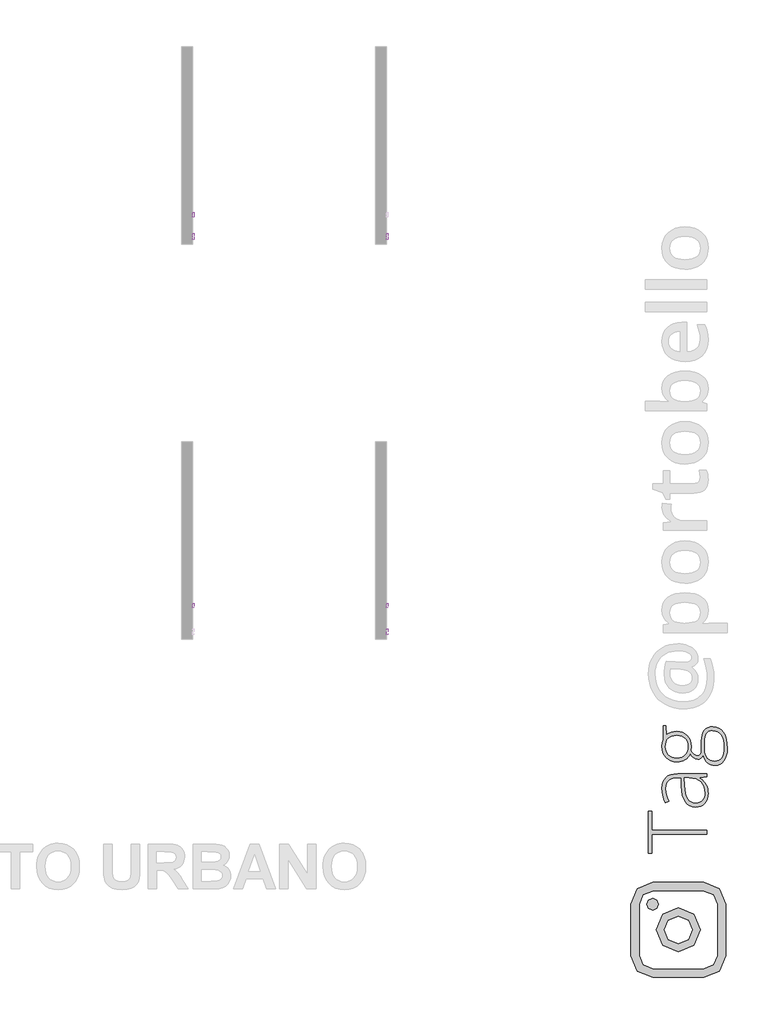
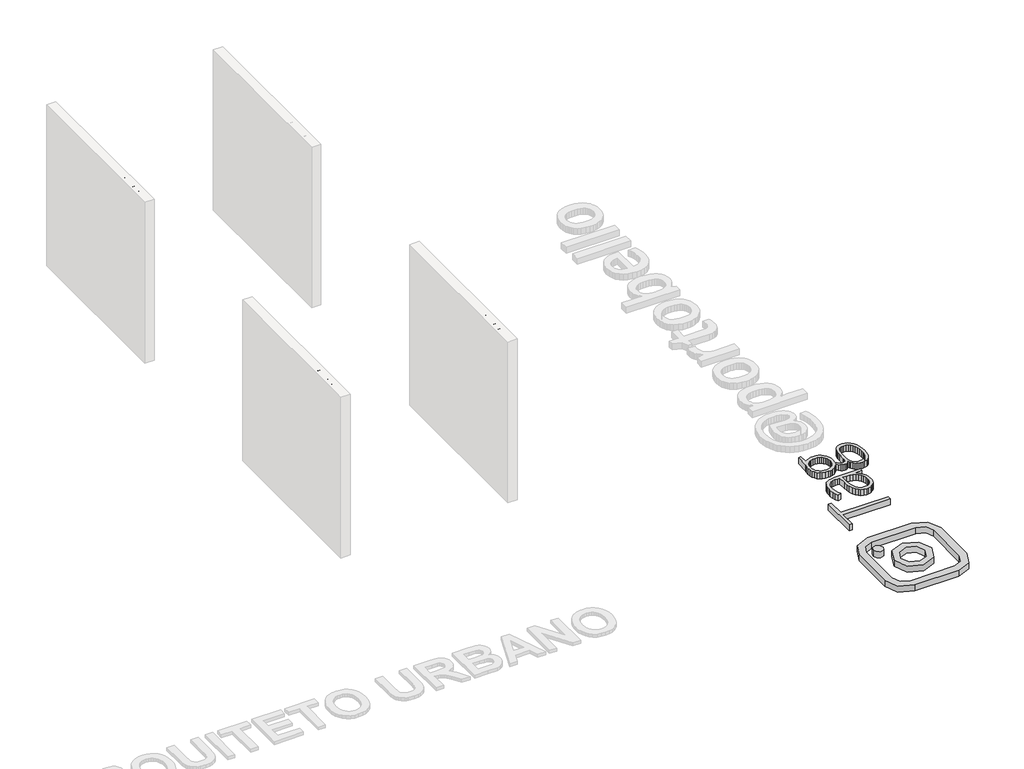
# One storey, part 4 of 8: 8 proxies.
"""IFC4 building model written with IfcOpenShell, lengths in millimetres."""

from ifc_helpers import new_model, si_unit, frame, origin, origin_with_axes, place, context, project, spatial, polyline, outline, extrude, transform, mapped, element, save
from components import generic_models_d67f6705

model = new_model("IFC4")

# Units and contexts
model_context = context("Model", 3, world=origin())
ifc_project = project(units=[si_unit("LENGTHUNIT", "METRE", prefix="MILLI")], contexts=[model_context])

# Site, building, storey
site = spatial("IfcSite", under=ifc_project)
building = spatial("IfcBuilding", under=site)
storey = spatial("IfcBuildingStorey", under=building, Name="PORTOBELLO - SHOWROOM", Elevation=0.0)

# Proxies
placement = place(None, origin())
generic_models_shape = generic_models_d67f6705(model_context)
element("IfcBuildingElementProxy", 1, Name="Blks_Instagram1 : Único 2", ObjectType="Blks_Instagram1 : Único 2", at=placement, inside=storey, context=model_context, shape_type="MappedRepresentation", body=[
    mapped(generic_models_shape, transform((-5593.7976142, -13201.2406298, 0.0), x_axis=(-1.0, 0.0, 0.0), y_axis=(0.0, -1.0, 0.0), z_axis=(0.0, 0.0, 1.0))),
])
element("IfcBuildingElementProxy", 2, Name="10mm Arial", ObjectType="10mm Arial", at=placement, inside=storey, context=model_context, shape_type="SweptSolid", body=[
    extrude(outline(polyline([(-3764.9115358, 2548.8308244), (-3764.9115358, 2649.2871345), (-3752.354497, 2649.2871345), (-3752.354497, 2600.1135745), (-3700.8510177, 2649.2871345), (-3683.2907838, 2649.2871345), (-3726.529181, 2607.9862492), (-3681.721154, 2548.8308244), (-3697.0740959, 2548.8308244), (-3735.4319253, 2599.5004379), (-3752.354497, 2583.362681), (-3752.354497, 2548.8308244), (-3764.9115358, 2548.8308244)])), frame((-9585.374587, 0.0, 0.0), z_axis=(1.0, 0.0, 0.0), x_axis=(0.0, 1.0, 0.0)), (0.0, 0.0, 1.0), 20.0),
    extrude(outline(polyline([(-3626.7841094, 2558.2486035), (-3638.9610034, 2549.7382666), (-3652.4132217, 2547.2611945), (-3662.9070556, 2548.7511166), (-3670.6479059, 2553.2208829), (-3675.4211748, 2560.0083057), (-3677.0122644, 2568.4511975), (-3674.6087687, 2578.3840113), (-3668.2934611, 2585.5944984), (-3659.5010815, 2589.7147768), (-3648.6362999, 2591.6032377), (-3626.8576858, 2595.9197198), (-3626.7841094, 2598.7156229), (-3630.2422001, 2607.9862492), (-3644.1236141, 2611.6160182), (-3656.8278056, 2609.2002598), (-3662.8855958, 2600.6286093), (-3675.4426346, 2602.1982392), (-3670.0102438, 2614.4609723), (-3659.0718858, 2621.646934), (-3642.5049333, 2624.173057), (-3627.2868814, 2621.9412396), (-3618.6907055, 2616.3371705), (-3614.8402072, 2607.8145709), (-3614.2270706, 2596.827162), (-3614.2270706, 2581.20444), (-3613.5894085, 2559.3890376), (-3611.0878109, 2548.8308244), (-3623.6448497, 2548.8308244), (-3626.7841094, 2558.2486035)]), holes=[polyline([(-3626.7841094, 2583.362681), (-3647.0421446, 2579.5121828), (-3657.8456125, 2577.4765691), (-3662.738443, 2574.1656311), (-3664.4552257, 2569.3341142), (-3660.715092, 2562.5405601), (-3649.7399459, 2559.8182333), (-3637.0357543, 2562.8226029), (-3628.8442485, 2570.0944037), (-3626.8576858, 2579.8064884), (-3626.7841094, 2583.362681)])]), frame((-9585.374587, 0.0, 0.0), z_axis=(1.0, 0.0, 0.0), x_axis=(0.0, 1.0, 0.0)), (0.0, 0.0, 1.0), 20.0),
    extrude(outline(polyline([(-3596.9611423, 2548.8308244), (-3596.9611423, 2649.2871345), (-3584.4041035, 2649.2871345), (-3584.4041035, 2595.3065831), (-3556.2488681, 2622.6034272), (-3538.884838, 2622.6034272), (-3567.3834299, 2594.9632266), (-3537.3152081, 2548.8308244), (-3551.981437, 2548.8308244), (-3576.384276, 2586.2321606), (-3584.4041035, 2578.4575877), (-3584.4041035, 2548.8308244), (-3596.9611423, 2548.8308244)])), frame((-9585.374587, 0.0, 0.0), z_axis=(1.0, 0.0, 0.0), x_axis=(0.0, 1.0, 0.0)), (0.0, 0.0, 1.0), 20.0),
    extrude(outline(polyline([(-9565.374587, -3513.7707604), (-9565.374587, -3526.3277992), (-9585.374587, -3526.3277992), (-9585.374587, -3513.7707604), (-9565.374587, -3513.7707604)])), frame((0.0, 0.0, 2636.7300958), z_axis=(0.0, 0.0, 1.0), x_axis=(1.0, 0.0, 0.0)), (0.0, 0.0, 1.0), 12.5570388),
    extrude(outline(polyline([(-9565.374587, -3513.7707604), (-9565.374587, -3526.3277992), (-9585.374587, -3526.3277992), (-9585.374587, -3513.7707604), (-9565.374587, -3513.7707604)])), frame((0.0, 0.0, 2548.8308244), z_axis=(0.0, 0.0, 1.0), x_axis=(1.0, 0.0, 0.0)), (0.0, 0.0, 1.0), 73.7726028),
])
element("IfcBuildingElementProxy", 3, Name="10mm Arial", ObjectType="10mm Arial", at=placement, inside=storey, context=model_context, shape_type="SweptSolid", body=[
    extrude(outline(polyline([(-3764.9115358, 2548.8308244), (-3764.9115358, 2649.2871345), (-3752.354497, 2649.2871345), (-3752.354497, 2600.1135745), (-3700.8510177, 2649.2871345), (-3683.2907838, 2649.2871345), (-3726.529181, 2607.9862492), (-3681.721154, 2548.8308244), (-3697.0740959, 2548.8308244), (-3735.4319253, 2599.5004379), (-3752.354497, 2583.362681), (-3752.354497, 2548.8308244), (-3764.9115358, 2548.8308244)])), frame((-12236.674587, 0.0, 0.0), z_axis=(1.0, 0.0, 0.0), x_axis=(0.0, 1.0, 0.0)), (0.0, 0.0, 1.0), 20.0),
    extrude(outline(polyline([(-3626.7841094, 2558.2486035), (-3638.9610034, 2549.7382666), (-3652.4132217, 2547.2611945), (-3662.9070556, 2548.7511166), (-3670.6479059, 2553.2208829), (-3675.4211748, 2560.0083057), (-3677.0122644, 2568.4511975), (-3674.6087687, 2578.3840113), (-3668.2934611, 2585.5944984), (-3659.5010815, 2589.7147768), (-3648.6362999, 2591.6032377), (-3626.8576858, 2595.9197198), (-3626.7841094, 2598.7156229), (-3630.2422001, 2607.9862492), (-3644.1236141, 2611.6160182), (-3656.8278056, 2609.2002598), (-3662.8855958, 2600.6286093), (-3675.4426346, 2602.1982392), (-3670.0102438, 2614.4609723), (-3659.0718858, 2621.646934), (-3642.5049333, 2624.173057), (-3627.2868814, 2621.9412396), (-3618.6907055, 2616.3371705), (-3614.8402072, 2607.8145709), (-3614.2270706, 2596.827162), (-3614.2270706, 2581.20444), (-3613.5894085, 2559.3890376), (-3611.0878109, 2548.8308244), (-3623.6448497, 2548.8308244), (-3626.7841094, 2558.2486035)]), holes=[polyline([(-3626.7841094, 2583.362681), (-3647.0421446, 2579.5121828), (-3657.8456125, 2577.4765691), (-3662.738443, 2574.1656311), (-3664.4552257, 2569.3341142), (-3660.715092, 2562.5405601), (-3649.7399459, 2559.8182333), (-3637.0357543, 2562.8226029), (-3628.8442485, 2570.0944037), (-3626.8576858, 2579.8064884), (-3626.7841094, 2583.362681)])]), frame((-12236.674587, 0.0, 0.0), z_axis=(1.0, 0.0, 0.0), x_axis=(0.0, 1.0, 0.0)), (0.0, 0.0, 1.0), 20.0),
    extrude(outline(polyline([(-3596.9611423, 2548.8308244), (-3596.9611423, 2649.2871345), (-3584.4041035, 2649.2871345), (-3584.4041035, 2595.3065831), (-3556.2488681, 2622.6034272), (-3538.884838, 2622.6034272), (-3567.3834299, 2594.9632266), (-3537.3152081, 2548.8308244), (-3551.981437, 2548.8308244), (-3576.384276, 2586.2321606), (-3584.4041035, 2578.4575877), (-3584.4041035, 2548.8308244), (-3596.9611423, 2548.8308244)])), frame((-12236.674587, 0.0, 0.0), z_axis=(1.0, 0.0, 0.0), x_axis=(0.0, 1.0, 0.0)), (0.0, 0.0, 1.0), 20.0),
    extrude(outline(polyline([(-12216.674587, -3513.7707604), (-12216.674587, -3526.3277992), (-12236.674587, -3526.3277992), (-12236.674587, -3513.7707604), (-12216.674587, -3513.7707604)])), frame((0.0, 0.0, 2636.7300958), z_axis=(0.0, 0.0, 1.0), x_axis=(1.0, 0.0, 0.0)), (0.0, 0.0, 1.0), 12.5570388),
    extrude(outline(polyline([(-12216.674587, -3513.7707604), (-12216.674587, -3526.3277992), (-12236.674587, -3526.3277992), (-12236.674587, -3513.7707604), (-12216.674587, -3513.7707604)])), frame((0.0, 0.0, 2548.8308244), z_axis=(0.0, 0.0, 1.0), x_axis=(1.0, 0.0, 0.0)), (0.0, 0.0, 1.0), 73.7726028),
])
element("IfcBuildingElementProxy", 4, Name="10mm Arial", ObjectType="10mm Arial", at=placement, inside=storey, context=model_context, shape_type="SweptSolid", body=[
    extrude(outline(polyline([(-9164.9115358, 2548.8308244), (-9164.9115358, 2649.2871345), (-9151.4715803, 2649.2871345), (-9098.9870823, 2569.7019962), (-9098.9870823, 2649.2871345), (-9086.4300435, 2649.2871345), (-9086.4300435, 2548.8308244), (-9099.8699991, 2548.8308244), (-9152.354497, 2628.4404881), (-9152.354497, 2548.8308244), (-9164.9115358, 2548.8308244)])), frame((-9585.374587, 0.0, 0.0), z_axis=(1.0, 0.0, 0.0), x_axis=(0.0, 1.0, 0.0)), (0.0, 0.0, 1.0), 20.0),
    extrude(outline(polyline([(-9014.3742234, 2570.8056422), (-9002.0624393, 2569.2360124), (-9006.498483, 2559.9592547), (-9013.5771457, 2553.0246791), (-9023.1390119, 2548.7020657), (-9035.024666, 2547.2611945), (-9049.75834, 2549.7474637), (-9061.0952368, 2557.2062711), (-9068.324118, 2569.1532389), (-9070.733745, 2585.1039891), (-9068.2995925, 2601.5912339), (-9060.9971349, 2613.9214121), (-9049.8135223, 2621.6101458), (-9035.7359046, 2624.173057), (-9022.0966796, 2621.6162771), (-9011.1981755, 2613.9459375), (-9004.0520677, 2601.6402848), (-9001.6700318, 2585.1775655), (-9001.7436082, 2581.7930512), (-9058.1767063, 2581.7930512), (-9056.0031368, 2572.3936662), (-9050.9539564, 2565.483616), (-9043.6668272, 2561.234579), (-9034.7794114, 2559.8182333), (-9022.4676273, 2562.4424582), (-9014.3742234, 2570.8056422)]), holes=[polyline([(-9058.1767063, 2594.3500899), (-9014.2270706, 2594.3500899), (-9019.2547912, 2605.7299063), (-9026.5756429, 2610.1444902), (-9035.7849555, 2611.6160182), (-9051.248262, 2606.9193914), (-9056.1135014, 2601.4287526), (-9058.1767063, 2594.3500899)])]), frame((-9585.374587, 0.0, 0.0), z_axis=(1.0, 0.0, 0.0), x_axis=(0.0, 1.0, 0.0)), (0.0, 0.0, 1.0), 20.0),
    extrude(outline(polyline([(-8971.0131989, 2548.8308244), (-8996.9611423, 2622.6034272), (-8983.6683395, 2622.6034272), (-8967.9475156, 2578.4085368), (-8963.2141006, 2563.5461042), (-8958.5787874, 2577.5746709), (-8942.7598617, 2622.6034272), (-8929.4670589, 2622.6034272), (-8955.0961712, 2548.8308244), (-8971.0131989, 2548.8308244)])), frame((-9585.374587, 0.0, 0.0), z_axis=(1.0, 0.0, 0.0), x_axis=(0.0, 1.0, 0.0)), (0.0, 0.0, 1.0), 20.0),
    extrude(outline(polyline([(-8866.8290179, 2570.8056422), (-8854.5172337, 2569.2360124), (-8858.9532775, 2559.9592547), (-8866.0319402, 2553.0246791), (-8875.5938064, 2548.7020657), (-8887.4794605, 2547.2611945), (-8902.2131344, 2549.7474637), (-8913.5500312, 2557.2062711), (-8920.7789124, 2569.1532389), (-8923.1885395, 2585.1039891), (-8920.754387, 2601.5912339), (-8913.4519294, 2613.9214121), (-8902.2683167, 2621.6101458), (-8888.190699, 2624.173057), (-8874.5514741, 2621.6162771), (-8863.65297, 2613.9459375), (-8856.5068622, 2601.6402848), (-8854.1248263, 2585.1775655), (-8854.1984027, 2581.7930512), (-8910.6315007, 2581.7930512), (-8908.4579313, 2572.3936662), (-8903.4087509, 2565.483616), (-8896.1216217, 2561.234579), (-8887.2342059, 2559.8182333), (-8874.9224217, 2562.4424582), (-8866.8290179, 2570.8056422)]), holes=[polyline([(-8910.6315007, 2594.3500899), (-8866.6818651, 2594.3500899), (-8871.7095857, 2605.7299063), (-8879.0304374, 2610.1444902), (-8888.23975, 2611.6160182), (-8903.7030565, 2606.9193914), (-8908.5682959, 2601.4287526), (-8910.6315007, 2594.3500899)])]), frame((-9585.374587, 0.0, 0.0), z_axis=(1.0, 0.0, 0.0), x_axis=(0.0, 1.0, 0.0)), (0.0, 0.0, 1.0), 20.0),
])
element("IfcBuildingElementProxy", 5, Name="10mm Arial Narrow", ObjectType="10mm Arial Narrow", at=placement, inside=storey, context=model_context, shape_type="SweptSolid", body=[
    extrude(outline(polyline([(-3457.7764767, 2548.8308244), (-3457.7764767, 2649.5494281), (-3426.479592, 2649.5494281), (-3410.1838905, 2647.6711074), (-3398.7109044, 2638.1906642), (-3394.4212259, 2621.1715554), (-3396.2075343, 2609.0957299), (-3401.5664595, 2599.4693361), (-3411.3102484, 2593.1680777), (-3426.2511476, 2591.0676582), (-3448.029515, 2591.0676582), (-3448.029515, 2548.8308244), (-3457.7764767, 2548.8308244)]), holes=[polyline([(-3448.029515, 2602.4391135), (-3425.0581601, 2602.4391135), (-3409.1939647, 2606.9699277), (-3404.1681876, 2620.6385184), (-3406.6430021, 2630.8042949), (-3412.6206309, 2636.6042447), (-3425.2866045, 2638.1779729), (-3448.029515, 2638.1779729), (-3448.029515, 2602.4391135)])]), frame((-12236.674587, 0.0, 0.0), z_axis=(1.0, 0.0, 0.0), x_axis=(0.0, 1.0, 0.0)), (0.0, 0.0, 1.0), 20.0),
    extrude(outline(polyline([(-3386.2987579, 2585.3819306), (-3384.344289, 2601.9727061), (-3378.4808824, 2613.9247909), (-3369.6223157, 2621.1493455), (-3358.6823665, 2623.5575304), (-3347.869331, 2621.1493455), (-3338.9853815, 2613.9247909), (-3333.0458268, 2602.1630765), (-3331.0659752, 2586.143412), (-3333.0109255, 2568.9815254), (-3338.8457766, 2556.8390702), (-3347.6948248, 2549.6145156), (-3358.6823665, 2547.2063308), (-3369.5429947, 2549.6208613), (-3378.4174256, 2556.8644529), (-3384.3284248, 2568.8228834), (-3386.2987579, 2585.3819306)]), holes=[polyline([(-3376.5517962, 2585.4073133), (-3375.2477594, 2572.8555619), (-3371.3356488, 2563.9843038), (-3365.494452, 2558.7110453), (-3358.4031567, 2556.9532924), (-3351.6830835, 2558.7269095), (-3345.9910102, 2564.0477606), (-3342.1074552, 2572.9348829), (-3340.8129368, 2585.4073133), (-3342.1169737, 2597.9209906), (-3346.0290843, 2606.7795573), (-3351.870281, 2612.0528159), (-3358.9615764, 2613.8105687), (-3365.7292421, 2612.0432974), (-3371.4117969, 2606.7414833), (-3375.2667964, 2597.873398), (-3376.5517962, 2585.4073133)])]), frame((-12236.674587, 0.0, 0.0), z_axis=(1.0, 0.0, 0.0), x_axis=(0.0, 1.0, 0.0)), (0.0, 0.0, 1.0), 20.0),
    extrude(outline(polyline([(-3259.5882564, 2556.9532924), (-3257.9637628, 2547.2063308), (-3265.3247495, 2547.2063308), (-3273.5995138, 2549.3257873), (-3277.9145749, 2555.1257371), (-3279.0821797, 2569.7715623), (-3279.0821797, 2612.1860751), (-3287.2046478, 2612.1860751), (-3287.2046478, 2615.4350624), (-3288.8291414, 2610.5615815), (-3296.3931897, 2612.1860751), (-3302.4723494, 2609.8635569), (-3306.3432131, 2603.3782738), (-3308.3230647, 2587.9709673), (-3308.3230647, 2548.8308244), (-3318.0700263, 2548.8308244), (-3318.0700263, 2621.9330368), (-3308.3230647, 2621.9330368), (-3308.3230647, 2612.2368406), (-3302.0789174, 2621.3238517), (-3295.6824738, 2623.5575304), (-3287.2046478, 2621.9330368), (-3279.0821797, 2621.9330368), (-3279.0821797, 2638.1779729), (-3269.3352181, 2646.3004409), (-3269.3352181, 2621.9330368), (-3259.5882564, 2621.9330368), (-3259.5882564, 2612.1860751), (-3269.3352181, 2612.1860751), (-3269.3352181, 2567.5378836), (-3268.4722058, 2559.5423291), (-3263.8525521, 2556.9532924), (-3259.5882564, 2556.9532924)])), frame((-12236.674587, 0.0, 0.0), z_axis=(1.0, 0.0, 0.0), x_axis=(0.0, 1.0, 0.0)), (0.0, 0.0, 1.0), 20.0),
    extrude(outline(polyline([(-3253.090282, 2585.3819306), (-3251.1358131, 2601.9727061), (-3245.2724065, 2613.9247909), (-3236.4138398, 2621.1493455), (-3225.4738906, 2623.5575304), (-3214.660855, 2621.1493455), (-3205.7769056, 2613.9247909), (-3199.8373508, 2602.1630765), (-3197.8574993, 2586.143412), (-3199.8024496, 2568.9815254), (-3205.6373007, 2556.8390702), (-3214.4863489, 2549.6145156), (-3225.4738906, 2547.2063308), (-3236.3345188, 2549.6208613), (-3245.2089497, 2556.8644529), (-3251.1199489, 2568.8228834), (-3253.090282, 2585.3819306)]), holes=[polyline([(-3243.3433203, 2585.4073133), (-3242.0392834, 2572.8555619), (-3238.1271729, 2563.9843038), (-3232.2859761, 2558.7110453), (-3225.1946808, 2556.9532924), (-3218.4746076, 2558.7269095), (-3212.7825343, 2564.0477606), (-3208.8989793, 2572.9348829), (-3207.6044609, 2585.4073133), (-3208.9084978, 2597.9209906), (-3212.8206084, 2606.7795573), (-3218.6618051, 2612.0528159), (-3225.7531005, 2613.8105687), (-3232.5207662, 2612.0432974), (-3238.203321, 2606.7414833), (-3242.0583205, 2597.873398), (-3243.3433203, 2585.4073133)])]), frame((-12236.674587, 0.0, 0.0), z_axis=(1.0, 0.0, 0.0), x_axis=(0.0, 1.0, 0.0)), (0.0, 0.0, 1.0), 20.0),
    extrude(outline(polyline([(-3175.1145887, 2548.8308244), (-3184.8615504, 2548.8308244), (-3184.8615504, 2649.5494281), (-3175.1145887, 2649.5494281), (-3175.1145887, 2614.140544), (-3167.715528, 2621.2223208), (-3158.5142947, 2623.5575304), (-3145.632568, 2619.3566915), (-3136.3551865, 2606.6272611), (-3132.8777549, 2585.9403503), (-3134.8100139, 2569.4860068), (-3140.6067909, 2557.2832677), (-3148.9799132, 2549.725565), (-3158.6412082, 2547.2063308), (-3167.9820465, 2549.8207502), (-3175.1145887, 2557.5878602), (-3175.1145887, 2548.8308244)]), holes=[polyline([(-3175.1145887, 2585.9403503), (-3173.0332063, 2568.692797), (-3167.144417, 2559.9611439), (-3158.6919737, 2556.9532924), (-3152.7492461, 2558.7427737), (-3147.5108887, 2564.1112174), (-3142.6247166, 2585.5342269), (-3147.3332098, 2606.9699277), (-3152.5779128, 2612.1004085), (-3158.8950354, 2613.8105687), (-3164.8726642, 2612.0210875), (-3170.1649598, 2606.6526438), (-3175.1145887, 2585.9403503)])]), frame((-12236.674587, 0.0, 0.0), z_axis=(1.0, 0.0, 0.0), x_axis=(0.0, 1.0, 0.0)), (0.0, 0.0, 1.0), 20.0),
    extrude(outline(polyline([(-3080.8939594, 2571.5737349), (-3071.1469978, 2569.9492413), (-3074.8465281, 2560.0626747), (-3080.665515, 2552.9428238), (-3088.3691683, 2548.640454), (-3097.7226979, 2547.2063308), (-3109.3162519, 2549.6208613), (-3118.4603741, 2556.8644529), (-3124.3999289, 2568.6705872), (-3126.3797805, 2584.7727455), (-3124.3904104, 2601.4396692), (-3118.4223001, 2613.6201984), (-3109.4082642, 2621.0731974), (-3098.2811176, 2623.5575304), (-3087.5981684, 2621.1588641), (-3078.8506511, 2613.962865), (-3073.0158, 2602.2233604), (-3071.0708496, 2586.1941774), (-3071.1469978, 2582.9451902), (-3116.6328188, 2582.9451902), (-3110.6298073, 2563.5020323), (-3104.699771, 2558.5904774), (-3097.5957843, 2556.9532924), (-3087.4173166, 2560.608403), (-3080.8939594, 2571.5737349)]), holes=[polyline([(-3115.9728683, 2592.6921518), (-3080.8939594, 2592.6921518), (-3085.1582551, 2606.9572363), (-3090.9835877, 2612.0972356), (-3098.2049694, 2613.8105687), (-3110.4140542, 2608.0994584), (-3115.9728683, 2592.6921518)])]), frame((-12236.674587, 0.0, 0.0), z_axis=(1.0, 0.0, 0.0), x_axis=(0.0, 1.0, 0.0)), (0.0, 0.0, 1.0), 20.0),
    extrude(outline(polyline([(-12216.674587, -3048.4040872), (-12216.674587, -3058.1510489), (-12236.674587, -3058.1510489), (-12236.674587, -3048.4040872), (-12216.674587, -3048.4040872)])), frame((0.0, 0.0, 2548.8308244), z_axis=(0.0, 0.0, 1.0), x_axis=(1.0, 0.0, 0.0)), (0.0, 0.0, 1.0), 100.7186038),
    extrude(outline(polyline([(-12216.674587, -3022.4121895), (-12216.674587, -3032.1591512), (-12236.674587, -3032.1591512), (-12236.674587, -3022.4121895), (-12216.674587, -3022.4121895)])), frame((0.0, 0.0, 2548.8308244), z_axis=(0.0, 0.0, 1.0), x_axis=(1.0, 0.0, 0.0)), (0.0, 0.0, 1.0), 100.7186038),
    extrude(outline(polyline([(-3011.0407342, 2585.3819306), (-3009.0862654, 2601.9727061), (-3003.2228587, 2613.9247909), (-2994.364292, 2621.1493455), (-2983.4243429, 2623.5575304), (-2972.6113073, 2621.1493455), (-2963.7273579, 2613.9247909), (-2957.7878031, 2602.1630765), (-2955.8079515, 2586.143412), (-2957.7529019, 2568.9815254), (-2963.587753, 2556.8390702), (-2972.4368012, 2549.6145156), (-2983.4243429, 2547.2063308), (-2994.2849711, 2549.6208613), (-3003.159402, 2556.8644529), (-3009.0704012, 2568.8228834), (-3011.0407342, 2585.3819306)]), holes=[polyline([(-3001.2937726, 2585.4073133), (-2999.9897357, 2572.8555619), (-2996.0776251, 2563.9843038), (-2990.2364284, 2558.7110453), (-2983.145133, 2556.9532924), (-2976.4250599, 2558.7269095), (-2970.7329866, 2564.0477606), (-2966.8494315, 2572.9348829), (-2965.5549132, 2585.4073133), (-2966.85895, 2597.9209906), (-2970.7710606, 2606.7795573), (-2976.6122574, 2612.0528159), (-2983.7035527, 2613.8105687), (-2990.4712185, 2612.0432974), (-2996.1537733, 2606.7414833), (-3000.0087728, 2597.873398), (-3001.2937726, 2585.4073133)])]), frame((-12236.674587, 0.0, 0.0), z_axis=(1.0, 0.0, 0.0), x_axis=(0.0, 1.0, 0.0)), (0.0, 0.0, 1.0), 20.0),
])
element("IfcBuildingElementProxy", 6, Name="10mm Arial Narrow", ObjectType="10mm Arial Narrow", at=placement, inside=storey, context=model_context, shape_type="SweptSolid", body=[
    extrude(outline(polyline([(-8797.7764767, 2548.8308244), (-8797.7764767, 2649.5494281), (-8766.479592, 2649.5494281), (-8750.1838905, 2647.6711074), (-8738.7109044, 2638.1906642), (-8734.4212259, 2621.1715554), (-8736.2075343, 2609.0957299), (-8741.5664595, 2599.4693361), (-8751.3102484, 2593.1680777), (-8766.2511476, 2591.0676582), (-8788.029515, 2591.0676582), (-8788.029515, 2548.8308244), (-8797.7764767, 2548.8308244)]), holes=[polyline([(-8788.029515, 2602.4391135), (-8765.0581601, 2602.4391135), (-8749.1939647, 2606.9699277), (-8744.1681876, 2620.6385184), (-8746.6430021, 2630.8042949), (-8752.6206309, 2636.6042447), (-8765.2866045, 2638.1779729), (-8788.029515, 2638.1779729), (-8788.029515, 2602.4391135)])]), frame((-9585.374587, 0.0, 0.0), z_axis=(1.0, 0.0, 0.0), x_axis=(0.0, 1.0, 0.0)), (0.0, 0.0, 1.0), 20.0),
    extrude(outline(polyline([(-8726.2987579, 2585.3819306), (-8724.344289, 2601.9727061), (-8718.4808824, 2613.9247909), (-8709.6223157, 2621.1493455), (-8698.6823665, 2623.5575304), (-8687.869331, 2621.1493455), (-8678.9853815, 2613.9247909), (-8673.0458268, 2602.1630765), (-8671.0659752, 2586.143412), (-8673.0109255, 2568.9815254), (-8678.8457766, 2556.8390702), (-8687.6948248, 2549.6145156), (-8698.6823665, 2547.2063308), (-8709.5429947, 2549.6208613), (-8718.4174256, 2556.8644529), (-8724.3284248, 2568.8228834), (-8726.2987579, 2585.3819306)]), holes=[polyline([(-8716.5517962, 2585.4073133), (-8715.2477594, 2572.8555619), (-8711.3356488, 2563.9843038), (-8705.494452, 2558.7110453), (-8698.4031567, 2556.9532924), (-8691.6830835, 2558.7269095), (-8685.9910102, 2564.0477606), (-8682.1074552, 2572.9348829), (-8680.8129368, 2585.4073133), (-8682.1169737, 2597.9209906), (-8686.0290843, 2606.7795573), (-8691.870281, 2612.0528159), (-8698.9615764, 2613.8105687), (-8705.7292421, 2612.0432974), (-8711.4117969, 2606.7414833), (-8715.2667964, 2597.873398), (-8716.5517962, 2585.4073133)])]), frame((-9585.374587, 0.0, 0.0), z_axis=(1.0, 0.0, 0.0), x_axis=(0.0, 1.0, 0.0)), (0.0, 0.0, 1.0), 20.0),
    extrude(outline(polyline([(-8599.5882564, 2556.9532924), (-8597.9637628, 2547.2063308), (-8605.3247495, 2547.2063308), (-8613.5995138, 2549.3257873), (-8617.9145749, 2555.1257371), (-8619.0821797, 2569.7715623), (-8619.0821797, 2612.1860751), (-8627.2046478, 2612.1860751), (-8627.2046478, 2615.4350624), (-8628.8291414, 2610.5615815), (-8636.3931897, 2612.1860751), (-8642.4723494, 2609.8635569), (-8646.3432131, 2603.3782738), (-8648.3230647, 2587.9709673), (-8648.3230647, 2548.8308244), (-8658.0700263, 2548.8308244), (-8658.0700263, 2621.9330368), (-8648.3230647, 2621.9330368), (-8648.3230647, 2612.2368406), (-8642.0789174, 2621.3238517), (-8635.6824738, 2623.5575304), (-8627.2046478, 2621.9330368), (-8619.0821797, 2621.9330368), (-8619.0821797, 2638.1779729), (-8609.3352181, 2646.3004409), (-8609.3352181, 2621.9330368), (-8599.5882564, 2621.9330368), (-8599.5882564, 2612.1860751), (-8609.3352181, 2612.1860751), (-8609.3352181, 2567.5378836), (-8608.4722058, 2559.5423291), (-8603.8525521, 2556.9532924), (-8599.5882564, 2556.9532924)])), frame((-9585.374587, 0.0, 0.0), z_axis=(1.0, 0.0, 0.0), x_axis=(0.0, 1.0, 0.0)), (0.0, 0.0, 1.0), 20.0),
    extrude(outline(polyline([(-8593.090282, 2585.3819306), (-8591.1358131, 2601.9727061), (-8585.2724065, 2613.9247909), (-8576.4138398, 2621.1493455), (-8565.4738906, 2623.5575304), (-8554.660855, 2621.1493455), (-8545.7769056, 2613.9247909), (-8539.8373508, 2602.1630765), (-8537.8574993, 2586.143412), (-8539.8024496, 2568.9815254), (-8545.6373007, 2556.8390702), (-8554.4863489, 2549.6145156), (-8565.4738906, 2547.2063308), (-8576.3345188, 2549.6208613), (-8585.2089497, 2556.8644529), (-8591.1199489, 2568.8228834), (-8593.090282, 2585.3819306)]), holes=[polyline([(-8583.3433203, 2585.4073133), (-8582.0392834, 2572.8555619), (-8578.1271729, 2563.9843038), (-8572.2859761, 2558.7110453), (-8565.1946808, 2556.9532924), (-8558.4746076, 2558.7269095), (-8552.7825343, 2564.0477606), (-8548.8989793, 2572.9348829), (-8547.6044609, 2585.4073133), (-8548.9084978, 2597.9209906), (-8552.8206084, 2606.7795573), (-8558.6618051, 2612.0528159), (-8565.7531005, 2613.8105687), (-8572.5207662, 2612.0432974), (-8578.203321, 2606.7414833), (-8582.0583205, 2597.873398), (-8583.3433203, 2585.4073133)])]), frame((-9585.374587, 0.0, 0.0), z_axis=(1.0, 0.0, 0.0), x_axis=(0.0, 1.0, 0.0)), (0.0, 0.0, 1.0), 20.0),
    extrude(outline(polyline([(-8515.1145887, 2548.8308244), (-8524.8615504, 2548.8308244), (-8524.8615504, 2649.5494281), (-8515.1145887, 2649.5494281), (-8515.1145887, 2614.140544), (-8507.715528, 2621.2223208), (-8498.5142947, 2623.5575304), (-8485.632568, 2619.3566915), (-8476.3551865, 2606.6272611), (-8472.8777549, 2585.9403503), (-8474.8100139, 2569.4860068), (-8480.6067909, 2557.2832677), (-8488.9799132, 2549.725565), (-8498.6412082, 2547.2063308), (-8507.9820465, 2549.8207502), (-8515.1145887, 2557.5878602), (-8515.1145887, 2548.8308244)]), holes=[polyline([(-8515.1145887, 2585.9403503), (-8513.0332063, 2568.692797), (-8507.144417, 2559.9611439), (-8498.6919737, 2556.9532924), (-8492.7492461, 2558.7427737), (-8487.5108887, 2564.1112174), (-8482.6247166, 2585.5342269), (-8487.3332098, 2606.9699277), (-8492.5779128, 2612.1004085), (-8498.8950354, 2613.8105687), (-8504.8726642, 2612.0210875), (-8510.1649598, 2606.6526438), (-8515.1145887, 2585.9403503)])]), frame((-9585.374587, 0.0, 0.0), z_axis=(1.0, 0.0, 0.0), x_axis=(0.0, 1.0, 0.0)), (0.0, 0.0, 1.0), 20.0),
    extrude(outline(polyline([(-8420.8939594, 2571.5737349), (-8411.1469978, 2569.9492413), (-8414.8465281, 2560.0626747), (-8420.665515, 2552.9428238), (-8428.3691683, 2548.640454), (-8437.7226979, 2547.2063308), (-8449.3162519, 2549.6208613), (-8458.4603741, 2556.8644529), (-8464.3999289, 2568.6705872), (-8466.3797805, 2584.7727455), (-8464.3904104, 2601.4396692), (-8458.4223001, 2613.6201984), (-8449.4082642, 2621.0731974), (-8438.2811176, 2623.5575304), (-8427.5981684, 2621.1588641), (-8418.8506511, 2613.962865), (-8413.0158, 2602.2233604), (-8411.0708496, 2586.1941774), (-8411.1469978, 2582.9451902), (-8456.6328188, 2582.9451902), (-8450.6298073, 2563.5020323), (-8444.699771, 2558.5904774), (-8437.5957843, 2556.9532924), (-8427.4173166, 2560.608403), (-8420.8939594, 2571.5737349)]), holes=[polyline([(-8455.9728683, 2592.6921518), (-8420.8939594, 2592.6921518), (-8425.1582551, 2606.9572363), (-8430.9835877, 2612.0972356), (-8438.2049694, 2613.8105687), (-8450.4140542, 2608.0994584), (-8455.9728683, 2592.6921518)])]), frame((-9585.374587, 0.0, 0.0), z_axis=(1.0, 0.0, 0.0), x_axis=(0.0, 1.0, 0.0)), (0.0, 0.0, 1.0), 20.0),
    extrude(outline(polyline([(-9565.374587, -8388.4040872), (-9565.374587, -8398.1510489), (-9585.374587, -8398.1510489), (-9585.374587, -8388.4040872), (-9565.374587, -8388.4040872)])), frame((0.0, 0.0, 2548.8308244), z_axis=(0.0, 0.0, 1.0), x_axis=(1.0, 0.0, 0.0)), (0.0, 0.0, 1.0), 100.7186038),
    extrude(outline(polyline([(-9565.374587, -8362.4121895), (-9565.374587, -8372.1591512), (-9585.374587, -8372.1591512), (-9585.374587, -8362.4121895), (-9565.374587, -8362.4121895)])), frame((0.0, 0.0, 2548.8308244), z_axis=(0.0, 0.0, 1.0), x_axis=(1.0, 0.0, 0.0)), (0.0, 0.0, 1.0), 100.7186038),
    extrude(outline(polyline([(-8351.0407342, 2585.3819306), (-8349.0862654, 2601.9727061), (-8343.2228587, 2613.9247909), (-8334.364292, 2621.1493455), (-8323.4243429, 2623.5575304), (-8312.6113073, 2621.1493455), (-8303.7273579, 2613.9247909), (-8297.7878031, 2602.1630765), (-8295.8079515, 2586.143412), (-8297.7529019, 2568.9815254), (-8303.587753, 2556.8390702), (-8312.4368012, 2549.6145156), (-8323.4243429, 2547.2063308), (-8334.2849711, 2549.6208613), (-8343.159402, 2556.8644529), (-8349.0704012, 2568.8228834), (-8351.0407342, 2585.3819306)]), holes=[polyline([(-8341.2937726, 2585.4073133), (-8339.9897357, 2572.8555619), (-8336.0776251, 2563.9843038), (-8330.2364284, 2558.7110453), (-8323.145133, 2556.9532924), (-8316.4250599, 2558.7269095), (-8310.7329866, 2564.0477606), (-8306.8494315, 2572.9348829), (-8305.5549132, 2585.4073133), (-8306.85895, 2597.9209906), (-8310.7710606, 2606.7795573), (-8316.6122574, 2612.0528159), (-8323.7035527, 2613.8105687), (-8330.4712185, 2612.0432974), (-8336.1537733, 2606.7414833), (-8340.0087728, 2597.873398), (-8341.2937726, 2585.4073133)])]), frame((-9585.374587, 0.0, 0.0), z_axis=(1.0, 0.0, 0.0), x_axis=(0.0, 1.0, 0.0)), (0.0, 0.0, 1.0), 20.0),
])
element("IfcBuildingElementProxy", 7, Name="10mm Arial Narrow", ObjectType="10mm Arial Narrow", at=placement, inside=storey, context=model_context, shape_type="SweptSolid", body=[
    extrude(outline(polyline([(-8797.7764767, 2548.8308244), (-8797.7764767, 2649.5494281), (-8766.479592, 2649.5494281), (-8750.1838905, 2647.6711074), (-8738.7109044, 2638.1906642), (-8734.4212259, 2621.1715554), (-8736.2075343, 2609.0957299), (-8741.5664595, 2599.4693361), (-8751.3102484, 2593.1680777), (-8766.2511476, 2591.0676582), (-8788.029515, 2591.0676582), (-8788.029515, 2548.8308244), (-8797.7764767, 2548.8308244)]), holes=[polyline([(-8788.029515, 2602.4391135), (-8765.0581601, 2602.4391135), (-8749.1939647, 2606.9699277), (-8744.1681876, 2620.6385184), (-8746.6430021, 2630.8042949), (-8752.6206309, 2636.6042447), (-8765.2866045, 2638.1779729), (-8788.029515, 2638.1779729), (-8788.029515, 2602.4391135)])]), frame((-12236.674587, 0.0, 0.0), z_axis=(1.0, 0.0, 0.0), x_axis=(0.0, 1.0, 0.0)), (0.0, 0.0, 1.0), 20.0),
    extrude(outline(polyline([(-8726.2987579, 2585.3819306), (-8724.344289, 2601.9727061), (-8718.4808824, 2613.9247909), (-8709.6223157, 2621.1493455), (-8698.6823665, 2623.5575304), (-8687.869331, 2621.1493455), (-8678.9853815, 2613.9247909), (-8673.0458268, 2602.1630765), (-8671.0659752, 2586.143412), (-8673.0109255, 2568.9815254), (-8678.8457766, 2556.8390702), (-8687.6948248, 2549.6145156), (-8698.6823665, 2547.2063308), (-8709.5429947, 2549.6208613), (-8718.4174256, 2556.8644529), (-8724.3284248, 2568.8228834), (-8726.2987579, 2585.3819306)]), holes=[polyline([(-8716.5517962, 2585.4073133), (-8715.2477594, 2572.8555619), (-8711.3356488, 2563.9843038), (-8705.494452, 2558.7110453), (-8698.4031567, 2556.9532924), (-8691.6830835, 2558.7269095), (-8685.9910102, 2564.0477606), (-8682.1074552, 2572.9348829), (-8680.8129368, 2585.4073133), (-8682.1169737, 2597.9209906), (-8686.0290843, 2606.7795573), (-8691.870281, 2612.0528159), (-8698.9615764, 2613.8105687), (-8705.7292421, 2612.0432974), (-8711.4117969, 2606.7414833), (-8715.2667964, 2597.873398), (-8716.5517962, 2585.4073133)])]), frame((-12236.674587, 0.0, 0.0), z_axis=(1.0, 0.0, 0.0), x_axis=(0.0, 1.0, 0.0)), (0.0, 0.0, 1.0), 20.0),
    extrude(outline(polyline([(-8599.5882564, 2556.9532924), (-8597.9637628, 2547.2063308), (-8605.3247495, 2547.2063308), (-8613.5995138, 2549.3257873), (-8617.9145749, 2555.1257371), (-8619.0821797, 2569.7715623), (-8619.0821797, 2612.1860751), (-8627.2046478, 2612.1860751), (-8627.2046478, 2615.4350624), (-8628.8291414, 2610.5615815), (-8636.3931897, 2612.1860751), (-8642.4723494, 2609.8635569), (-8646.3432131, 2603.3782738), (-8648.3230647, 2587.9709673), (-8648.3230647, 2548.8308244), (-8658.0700263, 2548.8308244), (-8658.0700263, 2621.9330368), (-8648.3230647, 2621.9330368), (-8648.3230647, 2612.2368406), (-8642.0789174, 2621.3238517), (-8635.6824738, 2623.5575304), (-8627.2046478, 2621.9330368), (-8619.0821797, 2621.9330368), (-8619.0821797, 2638.1779729), (-8609.3352181, 2646.3004409), (-8609.3352181, 2621.9330368), (-8599.5882564, 2621.9330368), (-8599.5882564, 2612.1860751), (-8609.3352181, 2612.1860751), (-8609.3352181, 2567.5378836), (-8608.4722058, 2559.5423291), (-8603.8525521, 2556.9532924), (-8599.5882564, 2556.9532924)])), frame((-12236.674587, 0.0, 0.0), z_axis=(1.0, 0.0, 0.0), x_axis=(0.0, 1.0, 0.0)), (0.0, 0.0, 1.0), 20.0),
    extrude(outline(polyline([(-8593.090282, 2585.3819306), (-8591.1358131, 2601.9727061), (-8585.2724065, 2613.9247909), (-8576.4138398, 2621.1493455), (-8565.4738906, 2623.5575304), (-8554.660855, 2621.1493455), (-8545.7769056, 2613.9247909), (-8539.8373508, 2602.1630765), (-8537.8574993, 2586.143412), (-8539.8024496, 2568.9815254), (-8545.6373007, 2556.8390702), (-8554.4863489, 2549.6145156), (-8565.4738906, 2547.2063308), (-8576.3345188, 2549.6208613), (-8585.2089497, 2556.8644529), (-8591.1199489, 2568.8228834), (-8593.090282, 2585.3819306)]), holes=[polyline([(-8583.3433203, 2585.4073133), (-8582.0392834, 2572.8555619), (-8578.1271729, 2563.9843038), (-8572.2859761, 2558.7110453), (-8565.1946808, 2556.9532924), (-8558.4746076, 2558.7269095), (-8552.7825343, 2564.0477606), (-8548.8989793, 2572.9348829), (-8547.6044609, 2585.4073133), (-8548.9084978, 2597.9209906), (-8552.8206084, 2606.7795573), (-8558.6618051, 2612.0528159), (-8565.7531005, 2613.8105687), (-8572.5207662, 2612.0432974), (-8578.203321, 2606.7414833), (-8582.0583205, 2597.873398), (-8583.3433203, 2585.4073133)])]), frame((-12236.674587, 0.0, 0.0), z_axis=(1.0, 0.0, 0.0), x_axis=(0.0, 1.0, 0.0)), (0.0, 0.0, 1.0), 20.0),
    extrude(outline(polyline([(-8515.1145887, 2548.8308244), (-8524.8615504, 2548.8308244), (-8524.8615504, 2649.5494281), (-8515.1145887, 2649.5494281), (-8515.1145887, 2614.140544), (-8507.715528, 2621.2223208), (-8498.5142947, 2623.5575304), (-8485.632568, 2619.3566915), (-8476.3551865, 2606.6272611), (-8472.8777549, 2585.9403503), (-8474.8100139, 2569.4860068), (-8480.6067909, 2557.2832677), (-8488.9799132, 2549.725565), (-8498.6412082, 2547.2063308), (-8507.9820465, 2549.8207502), (-8515.1145887, 2557.5878602), (-8515.1145887, 2548.8308244)]), holes=[polyline([(-8515.1145887, 2585.9403503), (-8513.0332063, 2568.692797), (-8507.144417, 2559.9611439), (-8498.6919737, 2556.9532924), (-8492.7492461, 2558.7427737), (-8487.5108887, 2564.1112174), (-8482.6247166, 2585.5342269), (-8487.3332098, 2606.9699277), (-8492.5779128, 2612.1004085), (-8498.8950354, 2613.8105687), (-8504.8726642, 2612.0210875), (-8510.1649598, 2606.6526438), (-8515.1145887, 2585.9403503)])]), frame((-12236.674587, 0.0, 0.0), z_axis=(1.0, 0.0, 0.0), x_axis=(0.0, 1.0, 0.0)), (0.0, 0.0, 1.0), 20.0),
    extrude(outline(polyline([(-8420.8939594, 2571.5737349), (-8411.1469978, 2569.9492413), (-8414.8465281, 2560.0626747), (-8420.665515, 2552.9428238), (-8428.3691683, 2548.640454), (-8437.7226979, 2547.2063308), (-8449.3162519, 2549.6208613), (-8458.4603741, 2556.8644529), (-8464.3999289, 2568.6705872), (-8466.3797805, 2584.7727455), (-8464.3904104, 2601.4396692), (-8458.4223001, 2613.6201984), (-8449.4082642, 2621.0731974), (-8438.2811176, 2623.5575304), (-8427.5981684, 2621.1588641), (-8418.8506511, 2613.962865), (-8413.0158, 2602.2233604), (-8411.0708496, 2586.1941774), (-8411.1469978, 2582.9451902), (-8456.6328188, 2582.9451902), (-8450.6298073, 2563.5020323), (-8444.699771, 2558.5904774), (-8437.5957843, 2556.9532924), (-8427.4173166, 2560.608403), (-8420.8939594, 2571.5737349)]), holes=[polyline([(-8455.9728683, 2592.6921518), (-8420.8939594, 2592.6921518), (-8425.1582551, 2606.9572363), (-8430.9835877, 2612.0972356), (-8438.2049694, 2613.8105687), (-8450.4140542, 2608.0994584), (-8455.9728683, 2592.6921518)])]), frame((-12236.674587, 0.0, 0.0), z_axis=(1.0, 0.0, 0.0), x_axis=(0.0, 1.0, 0.0)), (0.0, 0.0, 1.0), 20.0),
    extrude(outline(polyline([(-12216.674587, -8388.4040872), (-12216.674587, -8398.1510489), (-12236.674587, -8398.1510489), (-12236.674587, -8388.4040872), (-12216.674587, -8388.4040872)])), frame((0.0, 0.0, 2548.8308244), z_axis=(0.0, 0.0, 1.0), x_axis=(1.0, 0.0, 0.0)), (0.0, 0.0, 1.0), 100.7186038),
    extrude(outline(polyline([(-12216.674587, -8362.4121895), (-12216.674587, -8372.1591512), (-12236.674587, -8372.1591512), (-12236.674587, -8362.4121895), (-12216.674587, -8362.4121895)])), frame((0.0, 0.0, 2548.8308244), z_axis=(0.0, 0.0, 1.0), x_axis=(1.0, 0.0, 0.0)), (0.0, 0.0, 1.0), 100.7186038),
    extrude(outline(polyline([(-8351.0407342, 2585.3819306), (-8349.0862654, 2601.9727061), (-8343.2228587, 2613.9247909), (-8334.364292, 2621.1493455), (-8323.4243429, 2623.5575304), (-8312.6113073, 2621.1493455), (-8303.7273579, 2613.9247909), (-8297.7878031, 2602.1630765), (-8295.8079515, 2586.143412), (-8297.7529019, 2568.9815254), (-8303.587753, 2556.8390702), (-8312.4368012, 2549.6145156), (-8323.4243429, 2547.2063308), (-8334.2849711, 2549.6208613), (-8343.159402, 2556.8644529), (-8349.0704012, 2568.8228834), (-8351.0407342, 2585.3819306)]), holes=[polyline([(-8341.2937726, 2585.4073133), (-8339.9897357, 2572.8555619), (-8336.0776251, 2563.9843038), (-8330.2364284, 2558.7110453), (-8323.145133, 2556.9532924), (-8316.4250599, 2558.7269095), (-8310.7329866, 2564.0477606), (-8306.8494315, 2572.9348829), (-8305.5549132, 2585.4073133), (-8306.85895, 2597.9209906), (-8310.7710606, 2606.7795573), (-8316.6122574, 2612.0528159), (-8323.7035527, 2613.8105687), (-8330.4712185, 2612.0432974), (-8336.1537733, 2606.7414833), (-8340.0087728, 2597.873398), (-8341.2937726, 2585.4073133)])]), frame((-12236.674587, 0.0, 0.0), z_axis=(1.0, 0.0, 0.0), x_axis=(0.0, 1.0, 0.0)), (0.0, 0.0, 1.0), 20.0),
])
element("IfcBuildingElementProxy", 8, Name="80mm OpenSans Light", ObjectType="80mm OpenSans Light", at=placement, inside=storey, context=model_context, shape_type="SweptSolid", body=[
    extrude(outline(polyline([(-5202.0846295, -11839.7446899), (-5202.0846295, -11896.2308367), (-5955.8742301, -11896.2308367), (-5955.8742301, -12154.8652787), (-6002.0246138, -12154.8652787), (-6002.0246138, -11581.3506145), (-5955.8742301, -11581.3506145), (-5955.8742301, -11839.7446899), (-5202.0846295, -11839.7446899)])), origin_with_axes(), (0.0, 0.0, 1.0), 100.0),
    extrude(outline(polyline([(-5202.0846295, -11109.7513809), (-5297.750529, -11123.4522761), (-5297.750529, -11127.7788746), (-5269.5750588, -11150.6512571), (-5245.8613932, -11173.8391208), (-5226.6095323, -11197.3424656), (-5211.819476, -11221.1612916), (-5200.8302164, -11246.2270192), (-5192.9807452, -11273.471069), (-5188.2710625, -11302.8934409), (-5186.7011682, -11334.4941349), (-5189.5930787, -11376.3780118), (-5198.26881, -11413.3343738), (-5212.7283622, -11445.3632208), (-5232.9717352, -11472.4645529), (-5258.3228982, -11494.0224307), (-5288.1058199, -11509.4209149), (-5322.3205006, -11518.6600054), (-5360.9669401, -11521.7397022), (-5403.1888324, -11517.1502028), (-5440.4381412, -11503.3817045), (-5472.7148662, -11480.4342074), (-5500.0190076, -11448.3077114), (-5521.914901, -11407.4979727), (-5537.9668817, -11358.5007473), (-5548.17495, -11301.3160352), (-5552.5391058, -11235.9438364), (-5555.9042379, -11121.2889769), (-5596.2858237, -11121.2889769), (-5636.907776, -11123.467299), (-5672.2416635, -11130.0022654), (-5702.2874863, -11140.8938762), (-5727.0452442, -11156.1421312), (-5746.394754, -11176.2427866), (-5760.2158325, -11201.6915985), (-5768.5084795, -11232.4885668), (-5771.2726952, -11268.6336915), (-5768.3882963, -11310.8330495), (-5759.7350993, -11353.7835531), (-5745.3131044, -11397.4852023), (-5725.1223115, -11441.937997), (-5772.2341616, -11462.3691565), (-5792.0043129, -11413.0038697), (-5806.1258496, -11363.9390412), (-5814.5987716, -11315.1746709), (-5817.4230789, -11266.7107589), (-5814.1856415, -11220.32752), (-5804.4733294, -11180.2088352), (-5788.2861424, -11146.3547045), (-5765.6240806, -11118.7651277), (-5736.1115712, -11097.3649905), (-5699.3730414, -11082.0791782), (-5655.4084913, -11072.9076908), (-5604.2179209, -11069.8505283), (-5202.0846295, -11069.8505283), (-5202.0846295, -11109.7513809)]), holes=[polyline([(-5232.8515519, -11331.609736), (-5236.4194934, -11285.8499479), (-5247.1233177, -11245.1979498), (-5264.963025, -11209.6537415), (-5289.9386151, -11179.2173231), (-5321.2538739, -11154.820115), (-5358.1125869, -11137.3935378), (-5400.5147542, -11126.9375915), (-5448.4603758, -11123.4522761), (-5509.7538542, -11123.4522761), (-5505.1868892, -11228.9732055), (-5500.2819086, -11287.9832014), (-5491.816498, -11337.8592671), (-5479.7906575, -11378.6014027), (-5464.2043869, -11410.2096082), (-5444.4267241, -11433.8706936), (-5419.8267068, -11450.7714689), (-5390.4043349, -11460.9119341), (-5356.1596084, -11464.2920891), (-5328.5775432, -11462.1212784), (-5304.2404267, -11455.6088464), (-5283.1482592, -11444.7547929), (-5265.3010405, -11429.5591181), (-5251.1043892, -11410.4124175), (-5240.9639241, -11387.705287), (-5234.879645, -11361.4377265), (-5232.8515519, -11331.609736)])]), origin_with_axes(), (0.0, 0.0, 1.0), 100.0),
    extrude(outline(polyline([(-5802.0396177, -10413.6497599), (-5763.5809646, -10413.6497599), (-5755.889234, -10536.9578164), (-5723.7402037, -10515.2947782), (-5690.0287906, -10499.8211795), (-5654.7549947, -10490.5370203), (-5617.918816, -10487.4423006), (-5575.3288623, -10491.0027306), (-5536.9753696, -10501.6840205), (-5502.8583379, -10519.4861705), (-5472.9777672, -10544.4091805), (-5448.6857195, -10575.341355), (-5431.3342569, -10611.1709986), (-5420.9233793, -10651.8981113), (-5417.4530868, -10697.5226931), (-5420.8182189, -10754.0088398), (-5402.5203129, -10782.4021423), (-5381.2779162, -10803.1638058), (-5357.8722203, -10815.8731888), (-5333.0844166, -10820.1096498), (-5308.7473001, -10814.7314476), (-5299.4180722, -10808.0086947), (-5291.9817311, -10798.5968407), (-5282.2468845, -10769.7828967), (-5279.0019356, -10726.3666829), (-5279.0019356, -10622.5283196), (-5276.5381782, -10577.1516158), (-5269.1469058, -10537.4085038), (-5256.8281185, -10503.2989835), (-5239.5818162, -10474.823055), (-5217.5131594, -10452.371314), (-5190.7273085, -10436.3343561), (-5159.2242633, -10426.7121814), (-5123.004024, -10423.5047898), (-5078.34842, -10428.2670527), (-5039.0860412, -10442.5538414), (-5005.2168875, -10466.3651559), (-4976.740959, -10499.7009962), (-4954.1840576, -10541.8252397), (-4938.0719851, -10592.0017637), (-4928.4047417, -10650.2305681), (-4925.1823272, -10716.5116531), (-4927.9390314, -10769.3547438), (-4936.2091441, -10815.8731888), (-4949.9926653, -10856.0669882), (-4969.289595, -10889.9361418), (-4993.5140395, -10916.8046188), (-5022.0801055, -10935.9963881), (-5054.9877928, -10947.5114496), (-5092.2371016, -10951.3498035), (-5122.2679014, -10948.9761835), (-5149.624623, -10941.8553235), (-5174.3072663, -10929.9872235), (-5196.3158315, -10913.3718836), (-5215.3498602, -10892.6853346), (-5231.1088942, -10868.6036077), (-5243.5929336, -10841.1267028), (-5252.8019782, -10810.25462), (-5266.2024152, -10834.4715531), (-5284.2900004, -10853.2802381), (-5306.223451, -10865.3586588), (-5331.1614839, -10869.3847991), (-5359.1491678, -10864.6225362), (-5385.4242398, -10850.3357475), (-5409.9866998, -10826.524433), (-5432.836548, -10793.1885927), (-5445.5909998, -10817.8186558), (-5461.5002629, -10839.5492971), (-5480.5643374, -10858.3805165), (-5502.7832233, -10874.312314), (-5527.4508438, -10886.9841398), (-5553.861122, -10896.0354439), (-5582.0140579, -10901.4662263), (-5611.9096515, -10903.2764871), (-5656.1220796, -10899.746103), (-5695.7374969, -10889.1549505), (-5730.7559033, -10871.5030296), (-5761.1772988, -10846.7903404), (-5785.7848276, -10816.0684867), (-5803.3616339, -10780.3890722), (-5813.9077177, -10739.7520969), (-5817.4230789, -10694.1575609), (-5813.5772136, -10642.2984709), (-5802.0396177, -10603.5393596), (-5802.0396177, -10413.6497599)]), holes=[polyline([(-5098.9673659, -10893.9021904), (-5069.0529936, -10891.0666159), (-5043.1272043, -10882.5598924), (-5021.189998, -10868.3820198), (-5003.2413746, -10848.5329981), (-4989.2813343, -10823.0128274), (-4979.3098768, -10791.8215077), (-4973.3270024, -10754.959039), (-4971.3327109, -10712.4254212), (-4973.7626668, -10657.7232452), (-4981.0525346, -10610.3146926), (-4993.2023141, -10570.1997635), (-5010.2120055, -10537.3784579), (-5032.0816087, -10511.8507758), (-5058.8111238, -10493.6167171), (-5090.4005507, -10482.6762819), (-5126.8498893, -10479.0294702), (-5152.8169916, -10481.3129527), (-5174.9532515, -10488.1634003), (-5193.258669, -10499.5808129), (-5207.7332441, -10515.5651906), (-5218.7225038, -10536.6573582), (-5226.571975, -10563.3981404), (-5231.2816577, -10595.7875373), (-5232.8515519, -10633.8255489), (-5232.8515519, -10730.933648), (-5230.7596115, -10769.1294001), (-5224.4837903, -10802.2323853), (-5214.0240883, -10830.2426035), (-5199.3805054, -10853.1600548), (-5180.5530417, -10870.9847392), (-5157.5416973, -10883.7166565), (-5130.346472, -10891.355807), (-5098.9673659, -10893.9021904)]), polyline([(-5612.6307512, -10848.2325399), (-5579.1672162, -10845.6260648), (-5549.6847526, -10837.8066394), (-5524.1833606, -10824.7742638), (-5502.66304, -10806.5289379), (-5485.5744784, -10783.9269678), (-5473.3683629, -10757.8246593), (-5466.0446936, -10728.2220125), (-5463.6034705, -10695.1190273), (-5466.0296707, -10660.2658729), (-5473.3082712, -10629.739317), (-5485.4392722, -10603.5393596), (-5502.4226735, -10581.6660006), (-5524.0030856, -10564.4196984), (-5549.9251192, -10552.1009111), (-5580.1887741, -10544.7096387), (-5614.7940505, -10542.2458812), (-5651.5175573, -10544.7847532), (-5683.3285721, -10552.4013693), (-5710.2270949, -10565.0957294), (-5732.2131257, -10582.8678336), (-5749.3016874, -10605.1918798), (-5761.5078028, -10631.5420664), (-5768.8314721, -10661.9183932), (-5771.2726952, -10696.3208602), (-5768.6511972, -10729.7768838), (-5760.7867031, -10759.4771796), (-5747.6792129, -10785.4217475), (-5729.3287267, -10807.6105876), (-5706.306115, -10825.3826917), (-5679.1822486, -10838.0770518), (-5647.9571273, -10845.6936679), (-5612.6307512, -10848.2325399)])]), origin_with_axes(), (0.0, 0.0, 1.0), 100.0),
])

save(model, "model.ifc")
